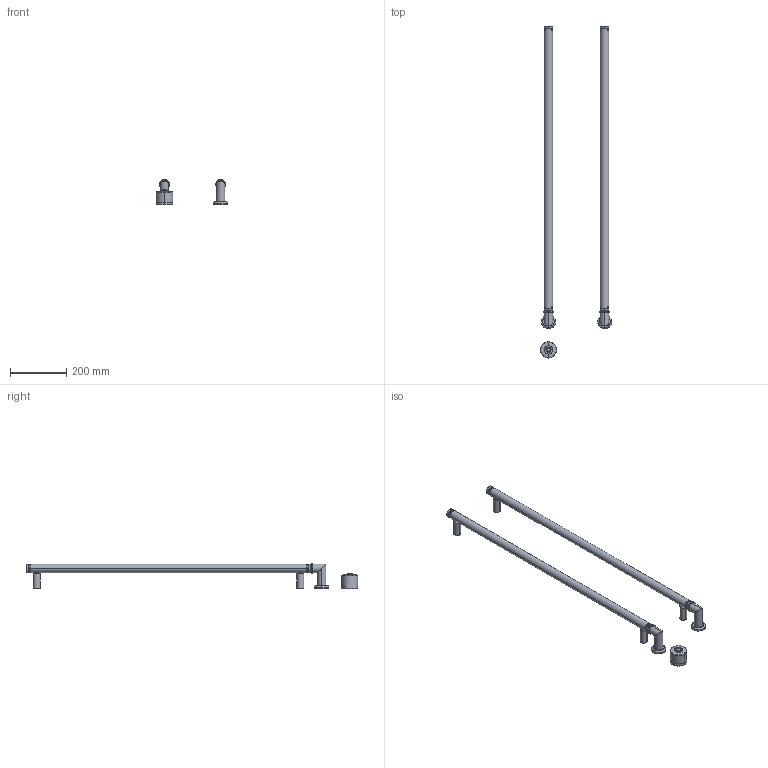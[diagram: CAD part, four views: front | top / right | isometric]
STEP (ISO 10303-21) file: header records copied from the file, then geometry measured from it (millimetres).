
FILE_DESCRIPTION (( 'STEP AP203' ), '1' );
FILE_NAME ('DINC1080.STEP', '2026-03-03T16:23:11', ( '' ), ( '' ), 'SwSTEP 2.0', 'SolidWorks 2025', '' );
FILE_SCHEMA (( 'CONFIG_CONTROL_DESIGN' ));
Length unit declared in the file: millimetre
Products named in the file (7): COPRIFILO ELEC EASY; TERMINALE COLLETTORE; SUPPORTO DINAMO; DINC1080; COLLETTORE DINAMO COLONNA; TAPPO CIECO; INFINT
Assembly tree (13 placements, depth 2):
  DINC1080
    COPRIFILO ELEC EASY  x2
    TERMINALE COLLETTORE  x2
    TAPPO CIECO  x2
    COLLETTORE DINAMO COLONNA  x2
    SUPPORTO DINAMO  x4
    INFINT
Bounding box: 254 x 1183 x 89.5 mm (x, y, z)
Volume: 582818.4 mm3; surface area: 464864.3 mm2
Topology: 15 solids, 15 shells, 282 faces, 616 edges, 376 vertices
Faces by surface type: cylinder 140, cone 74, plane 62, torus 6
Entity records: 5210 total; most frequent: CARTESIAN_POINT 1134, DIRECTION 729, ORIENTED_EDGE 598, AXIS2_PLACEMENT_3D 307, EDGE_CURVE 299, VERTEX_POINT 188, EDGE_LOOP 169, CIRCLE 152
